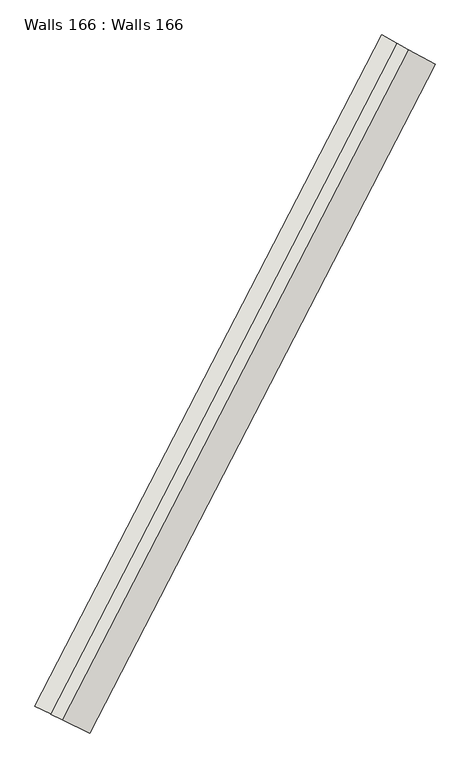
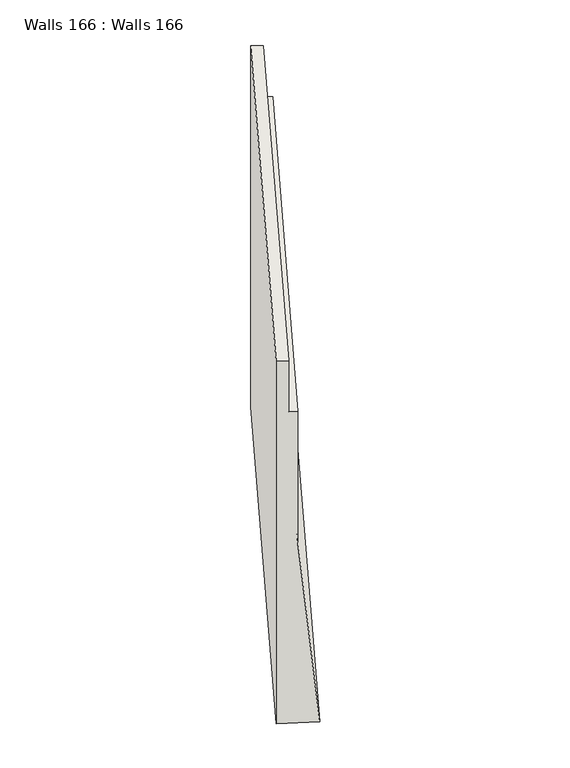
"""IFC4 building model written with IfcOpenShell, lengths in millimetres: wall geometry, Walls 166 : Walls 166."""

from ifc_helpers import new_model, si_unit, frame, origin, place, context, project, spatial, source, transform, mapped, element, save
from ifc_brep_helpers import plane_surface, spline_curve, spline_surface, advanced_brep


def walls_166_walls_166_16aec856(model_context):
    return source(origin(), model_context, "Body", "AdvancedBrep", [
        advanced_brep(
        [(204064.4630441, 95545.9886365, 642490.0), (203749.7016533, 95699.0291508, 645990.0), (203749.7016533, 95699.0291508, 648580.0), (203614.8039144, 95764.6179427, 648580.0), (203614.8039144, 95764.6179427, 649580.0), (203434.9402625, 95852.0696652, 649580.0), (203434.9402625, 95852.0696652, 642490.0), (208040.7262293, 103245.1548821, 642600.0), (207426.7170857, 103581.2988565, 642600.0), (207426.7170857, 103581.2988565, 649660.0), (207602.1482696, 103485.2577209, 649660.0), (207602.1482696, 103485.2577209, 648660.0), (207733.7216575, 103413.2268693, 648660.0), (207733.7216575, 103413.2268693, 646100.0)],
        [
            (0, 1),
            (1, 2),
            (2, 3),
            (3, 4),
            (4, 5),
            (5, 6),
            (6, 0),
            (7, 8),
            (8, 9),
            (9, 10),
            (10, 11),
            (11, 12),
            (12, 13),
            (13, 7),
            (13, 1, spline_curve(3, [(207733.7216575, 103413.2268693, 646100.0), (206343.831402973, 100874.421772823, 646063.333333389), (205015.307651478, 98302.021315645, 646026.666666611), (203749.7016533, 95699.0291508, 645990.0)], [4, 4], [0.0, 28.46200063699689])),
            (0, 7, spline_curve(3, [(204064.4630441, 95545.9886365, 642490.0), (205327.605046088, 98143.908840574, 642526.666666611), (206653.542185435, 100711.296854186, 642563.333333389), (208040.7262293, 103245.1548821, 642600.0)], [4, 4], [0.0, 28.46200063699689])),
            (11, 3, spline_curve(3, [(207602.1482696, 103485.2577209, 648660.0), (206211.098210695, 100944.332451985, 648633.333333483), (204881.465911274, 98369.783805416, 648606.666666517), (203614.8039144, 95764.6179427, 648580.0)], [4, 4], [0.0, 28.500563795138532])),
            (2, 12, spline_curve(3, [(203749.7016533, 95699.0291508, 648580.0), (205015.307652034, 98302.021315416, 648606.666666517), (206343.831403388, 100874.421772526, 648633.333333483), (207733.7216575, 103413.2268693, 648660.0)], [4, 4], [0.0, 28.500563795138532])),
            (9, 5, spline_curve(3, [(207426.7170857, 103581.2988565, 649660.0), (206034.120620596, 101037.546690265, 649633.33333296), (204703.010257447, 98460.13379114, 649606.66666704), (203434.9402625, 95852.0696652, 649580.0)], [4, 4], [0.0, 28.52831250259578])),
            (4, 10, spline_curve(3, [(203614.8039144, 95764.6179427, 649580.0), (204881.4659116, 98369.783805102, 649606.66666704), (206211.098210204, 100944.332451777, 649633.33333296), (207602.1482696, 103485.2577209, 649660.0)], [4, 4], [0.0, 28.52831250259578])),
            (8, 6, spline_curve(3, [(207426.7170857, 103581.2988565, 642600.0), (206034.120620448, 101037.546690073, 642563.333333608), (204703.010257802, 98460.133790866, 642526.666666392), (203434.9402625, 95852.0696652, 642490.0)], [4, 4], [0.0, 28.5446638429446])),
        ],
        [
            plane_surface(frame((203666.1935292, 95739.6317363, 646755.7142857), z_axis=(-0.4372655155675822, -0.8993324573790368, 0.0), x_axis=(-0.08948552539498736, 0.04350886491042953, 0.9950373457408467))),
            plane_surface(frame((207652.271465, 103457.8173965, 646848.5714286), z_axis=(0.4802056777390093, 0.8771559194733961, 0.0), x_axis=(-0.08728027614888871, 0.04778225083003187, 0.9950371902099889))),
            spline_surface(3, 3, [[(208040.7262293, 103245.1548821, 642600.0), (206653.542185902, 100711.296854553, 642563.333333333), (205327.605046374, 98143.908840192, 642526.666666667), (204064.4630441, 95545.9886365, 642490.0)], [(207938.391372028, 103301.178877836, 643766.666666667), (206550.305258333, 100765.671827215, 643730.0), (205223.505914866, 98196.612998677, 643693.333333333), (203959.542580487, 95597.002141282, 643656.666666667)], [(207836.056514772, 103357.202873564, 644933.333333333), (206447.06833078, 100820.046799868, 644896.666666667), (205119.406783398, 98249.317157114, 644860.0), (203854.622116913, 95648.015646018, 644823.333333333)], [(207733.7216575, 103413.2268693, 646100.0), (206343.831403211, 100874.42177253, 646063.333333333), (205015.30765189, 98302.021315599, 646026.666666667), (203749.7016533, 95699.0291508, 645990.0)]], [4, 4], [4, 4], [0.0, 11.54021060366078], [0.0, 28.46200063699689]),
            spline_surface(3, 3, [[(207733.7216575, 103413.2268693, 648660.0), (206343.831403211, 100874.42177253, 648633.333333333), (205015.30765189, 98302.021315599, 648606.666666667), (203749.7016533, 95699.0291508, 648580.0)], [(207689.863861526, 103437.237153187, 648660.0), (206299.587005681, 100897.725332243, 648633.333333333), (204970.693738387, 98324.608812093, 648606.666666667), (203704.735740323, 95720.892081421, 648580.0)], [(207646.006065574, 103461.247437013, 648660.0), (206255.342608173, 100921.028891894, 648633.333333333), (204926.079824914, 98347.196308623, 648606.666666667), (203659.769827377, 95742.755012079, 648580.0)], [(207602.1482696, 103485.2577209, 648660.0), (206211.098210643, 100944.332451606, 648633.333333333), (204881.465911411, 98369.783805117, 648606.666666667), (203614.8039144, 95764.6179427, 648580.0)]], [4, 4], [4, 4], [0.0, 0.49212209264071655], [0.0, 28.500563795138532]),
            spline_surface(3, 3, [[(207602.1482696, 103485.2577209, 649660.0), (206211.098210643, 100944.332451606, 649633.333333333), (204881.465911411, 98369.783805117, 649606.666666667), (203614.8039144, 95764.6179427, 649580.0)], [(207543.671208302, 103517.271432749, 649660.0), (206152.105680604, 100975.403864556, 649633.333333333), (204821.980693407, 98399.900467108, 649606.666666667), (203554.849363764, 95793.768516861, 649580.0)], [(207485.194146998, 103549.285144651, 649660.0), (206093.113150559, 101006.475277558, 649633.333333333), (204762.49547541, 98430.017129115, 649606.666666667), (203494.894813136, 95822.919091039, 649580.0)], [(207426.7170857, 103581.2988565, 649660.0), (206034.12062052, 101037.546690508, 649633.333333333), (204703.010257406, 98460.133791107, 649606.666666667), (203434.9402625, 95852.0696652, 649580.0)]], [4, 4], [4, 4], [0.0, 0.6561627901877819], [0.0, 28.52831250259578]),
            spline_surface(3, 3, [[(207426.7170857, 103581.2988565, 649660.0), (206034.12062052, 101037.546690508, 649633.333333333), (204703.010257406, 98460.133791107, 649606.666666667), (203434.9402625, 95852.0696652, 649580.0)], [(207426.7170857, 103581.2988565, 647306.666666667), (206034.12062052, 101037.546690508, 647276.666666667), (204703.010257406, 98460.133791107, 647246.666666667), (203434.9402625, 95852.0696652, 647216.666666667)], [(207426.7170857, 103581.2988565, 644953.333333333), (206034.12062052, 101037.546690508, 644920.0), (204703.010257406, 98460.133791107, 644886.666666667), (203434.9402625, 95852.0696652, 644853.333333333)], [(207426.7170857, 103581.2988565, 642600.0), (206034.12062052, 101037.546690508, 642563.333333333), (204703.010257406, 98460.133791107, 642526.666666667), (203434.9402625, 95852.0696652, 642490.0)]], [4, 4], [4, 4], [0.0, 23.211942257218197], [0.0, 28.5446638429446]),
            spline_surface(3, 3, [[(207733.7216575, 103413.2268693, 646100.0), (206343.831403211, 100874.42177253, 646063.333333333), (205015.30765189, 98302.021315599, 646026.666666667), (203749.7016533, 95699.0291508, 645990.0)], [(207733.7216575, 103413.2268693, 646953.333333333), (206343.831403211, 100874.42177253, 646920.0), (205015.30765189, 98302.021315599, 646886.666666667), (203749.7016533, 95699.0291508, 646853.333333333)], [(207733.7216575, 103413.2268693, 647806.666666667), (206343.831403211, 100874.42177253, 647776.666666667), (205015.30765189, 98302.021315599, 647746.666666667), (203749.7016533, 95699.0291508, 647716.666666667)], [(207733.7216575, 103413.2268693, 648660.0), (206343.831403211, 100874.42177253, 648633.333333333), (205015.30765189, 98302.021315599, 648606.666666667), (203749.7016533, 95699.0291508, 648580.0)]], [4, 4], [4, 4], [0.0, 8.44816272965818], [0.0, 28.489167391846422]),
            spline_surface(3, 3, [[(207602.1482696, 103485.2577209, 648660.0), (206211.098210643, 100944.332451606, 648633.333333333), (204881.465911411, 98369.783805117, 648606.666666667), (203614.8039144, 95764.6179427, 648580.0)], [(207602.1482696, 103485.2577209, 648993.333333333), (206211.098210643, 100944.332451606, 648966.666666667), (204881.465911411, 98369.783805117, 648940.0), (203614.8039144, 95764.6179427, 648913.333333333)], [(207602.1482696, 103485.2577209, 649326.666666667), (206211.098210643, 100944.332451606, 649300.0), (204881.465911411, 98369.783805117, 649273.333333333), (203614.8039144, 95764.6179427, 649246.666666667)], [(207602.1482696, 103485.2577209, 649660.0), (206211.098210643, 100944.332451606, 649633.333333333), (204881.465911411, 98369.783805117, 649606.666666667), (203614.8039144, 95764.6179427, 649580.0)]], [4, 4], [4, 4], [0.0, 3.280839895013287], [0.0, 28.512456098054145]),
            spline_surface(3, 3, [[(207426.7170857, 103581.2988565, 642600.0), (206034.12062052, 101037.546690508, 642563.333333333), (204703.010257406, 98460.133791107, 642526.666666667), (203434.9402625, 95852.0696652, 642490.0)], [(207631.386800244, 103469.250865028, 642600.0), (206240.594475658, 100928.796745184, 642563.333333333), (204911.208520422, 98354.725474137, 642526.666666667), (203644.781189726, 95750.042655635, 642490.0)], [(207836.056514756, 103357.202873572, 642600.0), (206447.068330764, 100820.046799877, 642563.333333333), (205119.406783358, 98249.317157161, 642526.666666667), (203854.622116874, 95648.015646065, 642490.0)], [(208040.7262293, 103245.1548821, 642600.0), (206653.542185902, 100711.296854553, 642563.333333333), (205327.605046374, 98143.908840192, 642526.666666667), (204064.4630441, 95545.9886365, 642490.0)]], [4, 4], [4, 4], [0.0, 2.2965697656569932], [0.0, 28.489748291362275]),
        ],
        [
            (0, [[1, 2, 3, 4, 5, 6, 7]]),
            (1, [[8, 9, 10, 11, 12, 13, 14]]),
            (2, [[-14, 15, -1, 16]]),
            (3, [[-12, 17, -3, 18]]),
            (4, [[-10, 19, -5, 20]]),
            (5, [[-9, 21, -6, -19]]),
            (6, [[-13, -18, -2, -15]]),
            (7, [[-11, -20, -4, -17]]),
            (8, [[-8, -16, -7, -21]]),
        ],
    ),
    ])


if __name__ == "__main__":
    model = new_model("IFC4")
    model_context = context("Model", 3, world=origin())
    ifc_project = project(units=[si_unit("LENGTHUNIT", "METRE", prefix="MILLI")], contexts=[model_context])
    site = spatial("IfcSite", under=ifc_project)
    building = spatial("IfcBuilding", under=site)
    placement = place(None, origin())
    walls_166_walls_166_shape = walls_166_walls_166_16aec856(model_context)
    element("IfcWall", 1, ObjectType="Walls 166 : Walls 166", at=placement, inside=building, context=model_context, shape_type="MappedRepresentation", body=[
        mapped(walls_166_walls_166_shape, transform((0.0, 0.0, 0.0), x_axis=(1.0, 0.0, 0.0), y_axis=(0.0, 1.0, 0.0), z_axis=(0.0, 0.0, 1.0))),
    ])
    save(model, "model.ifc")
